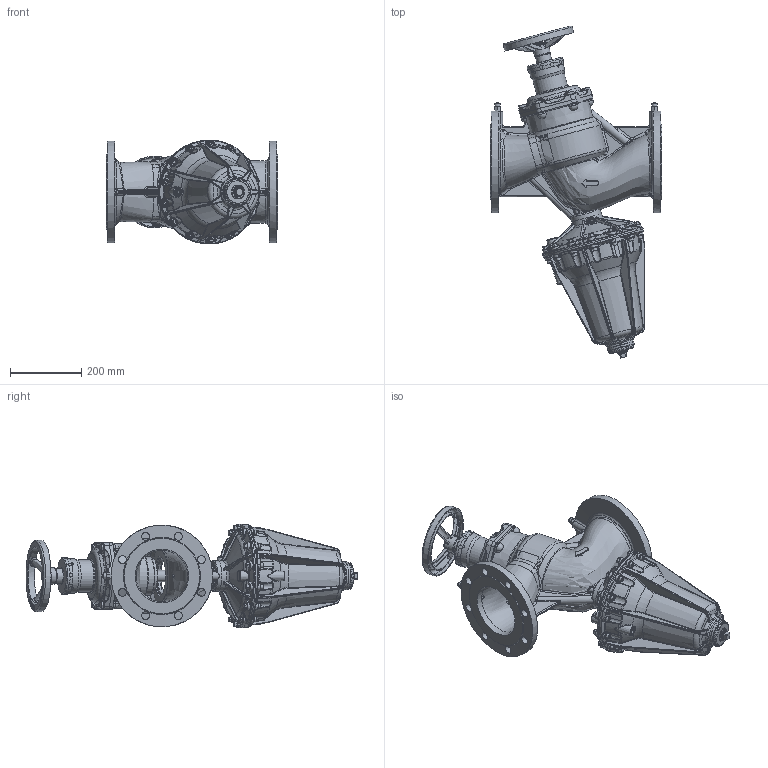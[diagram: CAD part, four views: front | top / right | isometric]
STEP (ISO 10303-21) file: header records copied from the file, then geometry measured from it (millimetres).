
FILE_DESCRIPTION (( 'STEP AP203' ), '1' );
FILE_NAME ('EKOFLUX.M_DN150.STEP', '2013-01-18T10:47:20', ( 'luca.saino' ), ( 'Hewlett-Packard Company' ), 'SwSTEP 2.0', 'SolidWorks 2012', '' );
FILE_SCHEMA (( 'CONFIG_CONTROL_DESIGN' ));
Length unit declared in the file: millimetre
Products named in the file (1): EKOFLUX.M_DN150
Bounding box: 480 x 930.35 x 291 mm (x, y, z)
Volume: 20593954.9 mm3; surface area: 1435371.6 mm2
Topology: 1 solids, 61 shells, 3836 faces, 9062 edges, 5332 vertices
Faces by surface type: bspline 1530, plane 866, cone 563, cylinder 546, torus 278, sphere 53
Full cylindrical faces by diameter (mm): 2 x2, 4 x2, 5 x2, 5.71 x4, 6.5 x2, 6.75 x3, 8 x11, 8.2 x4, 8.5 x22, 10 x2, 11.44 x2, 13 x14, 14.96 x1, 15 x2, 16 x2, 20 x1, 22 x17, 23.9 x1, 25 x2, 25.1 x1, 32 x1, 36 x1, 42 x1, 45 x1, 70 x1, 73 x1, 73.1 x1, 77 x1, 78 x1, 87 x1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
Entity records: 192739 total; most frequent: CARTESIAN_POINT 119819, ORIENTED_EDGE 17252, DIRECTION 11852, EDGE_CURVE 8626, VERTEX_POINT 5194, AXIS2_PLACEMENT_3D 5071, EDGE_LOOP 4170, FACE_OUTER_BOUND 3969
